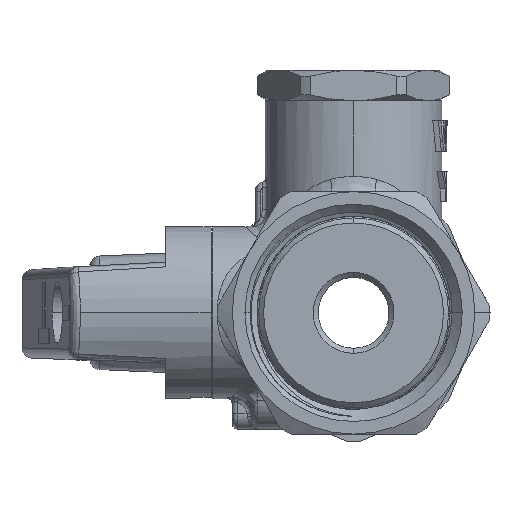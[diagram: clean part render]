
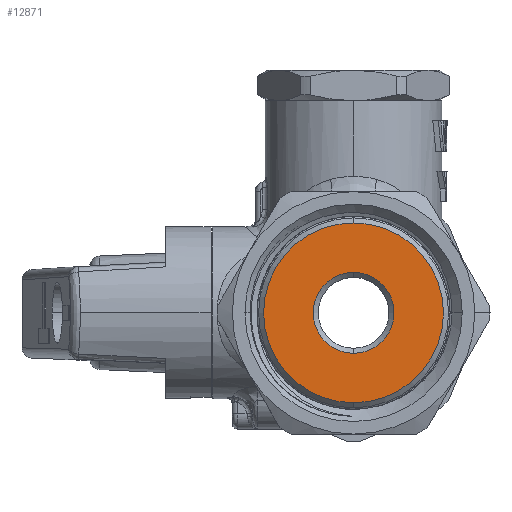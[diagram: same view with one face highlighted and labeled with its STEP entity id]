
A CAD part, left-side view. The second image highlights one B-rep face of the part: STEP entity #12871.
In plain terms, the highlighted planar face has unit normal (-1, 0, 0).
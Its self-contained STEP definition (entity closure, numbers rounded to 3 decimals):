
#1010 = ORIENTED_EDGE ( 'NONE', *, *, #8927, .T. ) ;
#1997 = DIRECTION ( 'NONE',  ( 1., 0., 0. ) ) ;
#2121 = EDGE_LOOP ( 'NONE', ( #2555, #31904 ) ) ;
#2555 = ORIENTED_EDGE ( 'NONE', *, *, #3746, .F. ) ;
#3019 = AXIS2_PLACEMENT_3D ( 'NONE', #22073, #9421, #5796 ) ;
#3746 = EDGE_CURVE ( 'NONE', #28233, #19472, #20682, .T. ) ;
#5796 = DIRECTION ( 'NONE',  ( 0., 0., 1. ) ) ;
#6275 = EDGE_CURVE ( 'NONE', #19472, #28233, #20022, .T. ) ;
#6663 = CARTESIAN_POINT ( 'NONE',  ( -19.5, 0., -4. ) ) ;
#7563 = CARTESIAN_POINT ( 'NONE',  ( -19.5, 0., 0. ) ) ;
#8819 = DIRECTION ( 'NONE',  ( 0., 0., 1. ) ) ;
#8927 = EDGE_CURVE ( 'NONE', #39632, #36732, #35005, .T. ) ;
#9421 = DIRECTION ( 'NONE',  ( 1., 0., 0. ) ) ;
#12052 = FACE_BOUND ( 'NONE', #19905, .T. ) ;
#12480 = AXIS2_PLACEMENT_3D ( 'NONE', #15900, #28758, #8819 ) ;
#12871 = ADVANCED_FACE ( 'NONE', ( #31564, #12052 ), #15266, .T. ) ;
#13063 = CARTESIAN_POINT ( 'NONE',  ( -19.5, 0., 4. ) ) ;
#14659 = CARTESIAN_POINT ( 'NONE',  ( -19.5, 0., 0. ) ) ;
#15076 = DIRECTION ( 'NONE',  ( 0., 0., 1. ) ) ;
#15266 = PLANE ( 'NONE',  #12480 ) ;
#15900 = CARTESIAN_POINT ( 'NONE',  ( -19.5, 3.5, 0. ) ) ;
#19472 = VERTEX_POINT ( 'NONE', #22906 ) ;
#19905 = EDGE_LOOP ( 'NONE', ( #1010, #27159 ) ) ;
#20022 = CIRCLE ( 'NONE', #28929, 8.9 ) ;
#20682 = CIRCLE ( 'NONE', #26180, 8.9 ) ;
#22073 = CARTESIAN_POINT ( 'NONE',  ( -19.5, 0., 0. ) ) ;
#22906 = CARTESIAN_POINT ( 'NONE',  ( -19.5, 0., 8.9 ) ) ;
#25379 = AXIS2_PLACEMENT_3D ( 'NONE', #14659, #1997, #15076 ) ;
#25573 = CIRCLE ( 'NONE', #3019, 4. ) ;
#26180 = AXIS2_PLACEMENT_3D ( 'NONE', #32252, #29681, #26246 ) ;
#26246 = DIRECTION ( 'NONE',  ( 0., 0., -1. ) ) ;
#27159 = ORIENTED_EDGE ( 'NONE', *, *, #31013, .T. ) ;
#28233 = VERTEX_POINT ( 'NONE', #39013 ) ;
#28758 = DIRECTION ( 'NONE',  ( -1., 0., 0. ) ) ;
#28929 = AXIS2_PLACEMENT_3D ( 'NONE', #7563, #34159, #31149 ) ;
#29681 = DIRECTION ( 'NONE',  ( 1., 0., 0. ) ) ;
#31013 = EDGE_CURVE ( 'NONE', #36732, #39632, #25573, .T. ) ;
#31149 = DIRECTION ( 'NONE',  ( 0., 0., -1. ) ) ;
#31564 = FACE_OUTER_BOUND ( 'NONE', #2121, .T. ) ;
#31904 = ORIENTED_EDGE ( 'NONE', *, *, #6275, .F. ) ;
#32252 = CARTESIAN_POINT ( 'NONE',  ( -19.5, 0., 0. ) ) ;
#34159 = DIRECTION ( 'NONE',  ( 1., 0., 0. ) ) ;
#35005 = CIRCLE ( 'NONE', #25379, 4. ) ;
#36732 = VERTEX_POINT ( 'NONE', #6663 ) ;
#39013 = CARTESIAN_POINT ( 'NONE',  ( -19.5, 0., -8.9 ) ) ;
#39632 = VERTEX_POINT ( 'NONE', #13063 ) ;
